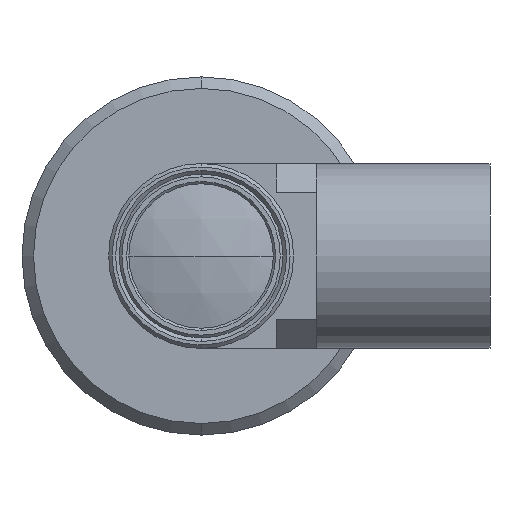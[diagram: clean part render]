
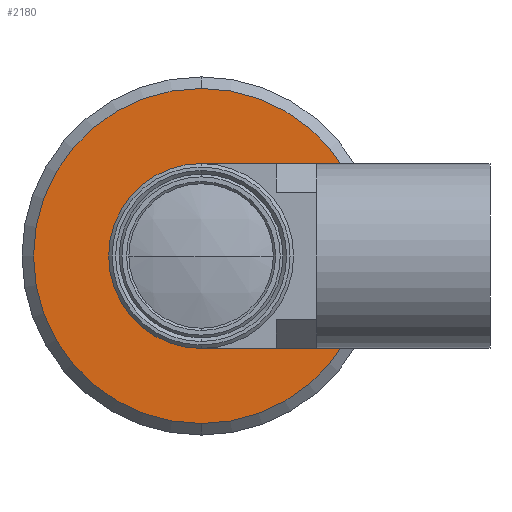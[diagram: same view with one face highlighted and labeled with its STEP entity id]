
A CAD part, left-side view. The second image highlights one B-rep face of the part: STEP entity #2180.
In plain terms, the highlighted planar face has unit normal (-1, 0, 0).
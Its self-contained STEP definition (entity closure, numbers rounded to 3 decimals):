
#20 = CIRCLE ( 'NONE', #2204, 8. ) ;
#163 = EDGE_CURVE ( 'NONE', #1496, #1663, #843, .T. ) ;
#266 = CARTESIAN_POINT ( 'NONE',  ( -24.026, 0., -14.5 ) ) ;
#269 = FACE_OUTER_BOUND ( 'NONE', #1929, .T. ) ;
#288 = EDGE_CURVE ( 'NONE', #971, #493, #522, .T. ) ;
#306 = DIRECTION ( 'NONE',  ( 1., 0., 0. ) ) ;
#325 = CARTESIAN_POINT ( 'NONE',  ( -24.026, 0., 8. ) ) ;
#493 = VERTEX_POINT ( 'NONE', #266 ) ;
#512 = AXIS2_PLACEMENT_3D ( 'NONE', #533, #1739, #699 ) ;
#522 = CIRCLE ( 'NONE', #1493, 14.5 ) ;
#533 = CARTESIAN_POINT ( 'NONE',  ( -24.026, 0., 0. ) ) ;
#581 = CARTESIAN_POINT ( 'NONE',  ( -24.026, 0., 0. ) ) ;
#699 = DIRECTION ( 'NONE',  ( 0., 0., 1. ) ) ;
#711 = DIRECTION ( 'NONE',  ( -1., 0., 0. ) ) ;
#765 = DIRECTION ( 'NONE',  ( 0., 0., 1. ) ) ;
#773 = FACE_BOUND ( 'NONE', #2046, .T. ) ;
#806 = PLANE ( 'NONE',  #876 ) ;
#839 = DIRECTION ( 'NONE',  ( 0., 0., 1. ) ) ;
#843 = CIRCLE ( 'NONE', #2243, 8. ) ;
#851 = ORIENTED_EDGE ( 'NONE', *, *, #288, .T. ) ;
#868 = ORIENTED_EDGE ( 'NONE', *, *, #2110, .F. ) ;
#876 = AXIS2_PLACEMENT_3D ( 'NONE', #1322, #306, #1508 ) ;
#971 = VERTEX_POINT ( 'NONE', #1833 ) ;
#1005 = CARTESIAN_POINT ( 'NONE',  ( -24.026, 0., 0. ) ) ;
#1322 = CARTESIAN_POINT ( 'NONE',  ( -24.026, 8., 0. ) ) ;
#1468 = ORIENTED_EDGE ( 'NONE', *, *, #1671, .T. ) ;
#1493 = AXIS2_PLACEMENT_3D ( 'NONE', #1005, #2059, #839 ) ;
#1496 = VERTEX_POINT ( 'NONE', #325 ) ;
#1508 = DIRECTION ( 'NONE',  ( 0., 0., -1. ) ) ;
#1663 = VERTEX_POINT ( 'NONE', #1909 ) ;
#1671 = EDGE_CURVE ( 'NONE', #493, #971, #1751, .T. ) ;
#1739 = DIRECTION ( 'NONE',  ( -1., 0., 0. ) ) ;
#1751 = CIRCLE ( 'NONE', #512, 14.5 ) ;
#1753 = DIRECTION ( 'NONE',  ( 0., 0., 1. ) ) ;
#1800 = DIRECTION ( 'NONE',  ( -1., 0., 0. ) ) ;
#1833 = CARTESIAN_POINT ( 'NONE',  ( -24.026, 0., 14.5 ) ) ;
#1909 = CARTESIAN_POINT ( 'NONE',  ( -24.026, 0., -8. ) ) ;
#1921 = CARTESIAN_POINT ( 'NONE',  ( -24.026, 0., 0. ) ) ;
#1929 = EDGE_LOOP ( 'NONE', ( #1468, #851 ) ) ;
#2046 = EDGE_LOOP ( 'NONE', ( #2212, #868 ) ) ;
#2059 = DIRECTION ( 'NONE',  ( -1., 0., 0. ) ) ;
#2110 = EDGE_CURVE ( 'NONE', #1663, #1496, #20, .T. ) ;
#2180 = ADVANCED_FACE ( 'NONE', ( #773, #269 ), #806, .F. ) ;
#2204 = AXIS2_PLACEMENT_3D ( 'NONE', #581, #1800, #765 ) ;
#2212 = ORIENTED_EDGE ( 'NONE', *, *, #163, .F. ) ;
#2243 = AXIS2_PLACEMENT_3D ( 'NONE', #1921, #711, #1753 ) ;
